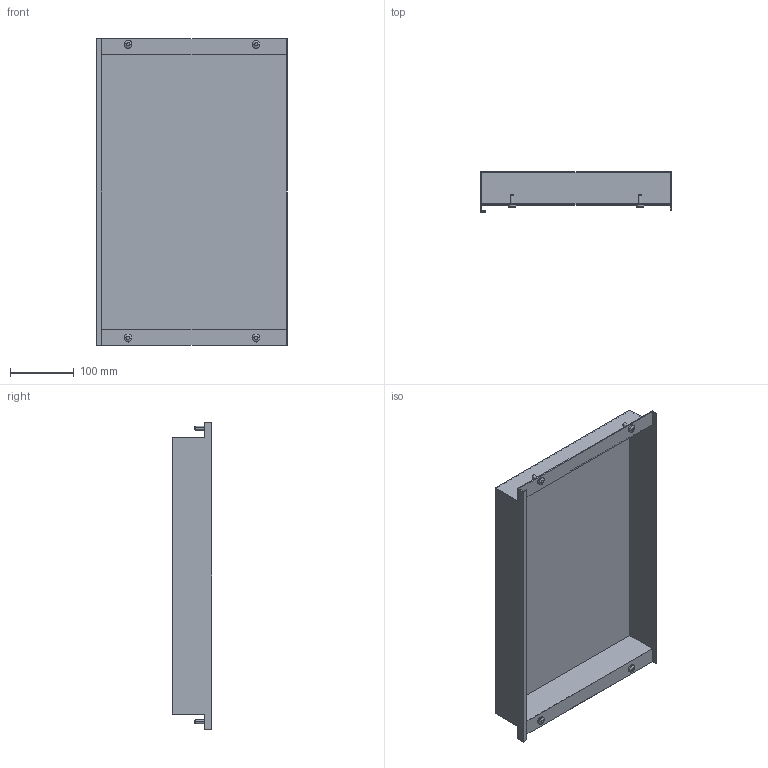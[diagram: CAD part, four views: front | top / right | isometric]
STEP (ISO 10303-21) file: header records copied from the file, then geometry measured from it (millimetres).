
FILE_DESCRIPTION (( 'STEP AP214' ), '1' );
FILE_NAME ('FO-00-PVSU-030-060 Ïëàñòðîí âíóòðåííèé óãëóáëåííûé 300õ600õ50.STEP', '2025-09-29T18:36:35', ( '' ), ( '' ), 'SwSTEP 2.0', 'SolidWorks 2023', '' );
FILE_SCHEMA (( 'AUTOMOTIVE_DESIGN' ));
Length unit declared in the file: millimetre
Products named in the file (3): Винты М6х16 30-060; FO-00-PVSU-030-060 Пластрон внутренний углубленный 300х600х50
Assembly tree (3 placements, depth 2):
  FO-00-PVSU-030-060 Пластрон внутренний углубленный 300х600х50
    FO-00-PVSU-030-060 Пластрон внутренний углубленный 300х600х50
    Винты М6х16 30-060  x2
Bounding box: 298 x 62.5 x 479 mm (x, y, z)
Volume: 322193.3 mm3; surface area: 460798.6 mm2
Topology: 5 solids, 5 shells, 150 faces, 392 edges, 256 vertices
Faces by surface type: cylinder 88, plane 42, cone 12, bspline 8
Entity records: 3233 total; most frequent: CARTESIAN_POINT 724, ORIENTED_EDGE 512, DIRECTION 500, EDGE_CURVE 256, AXIS2_PLACEMENT_3D 180, VERTEX_POINT 168, LINE 140, VECTOR 140
